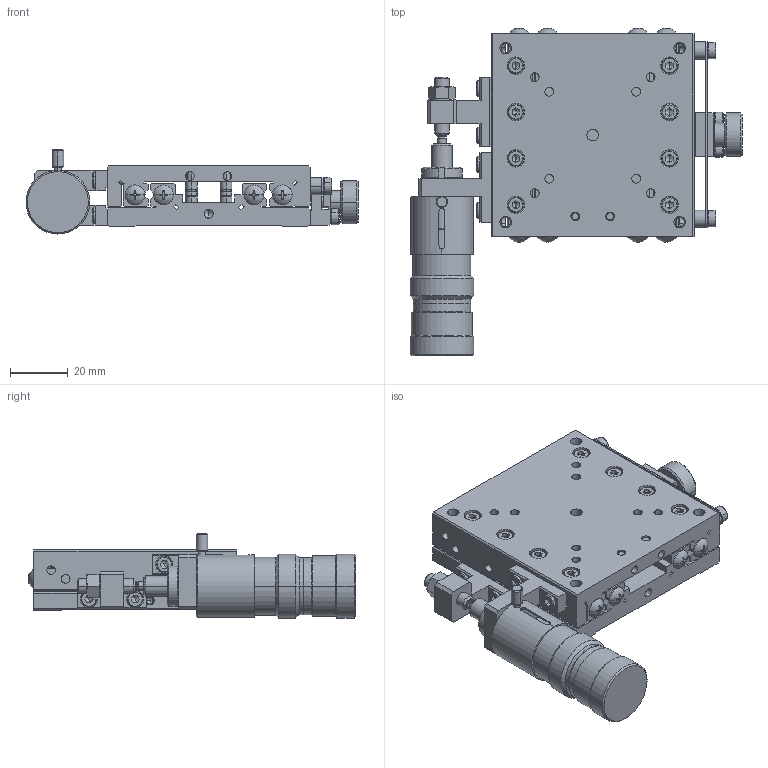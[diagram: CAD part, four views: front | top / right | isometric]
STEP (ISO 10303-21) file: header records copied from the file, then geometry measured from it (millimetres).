
FILE_DESCRIPTION (( 'STEP AP214' ), '1' );
FILE_NAME ('XM07F-S3Z-CL.STEP', '2009-05-11T06:15:19', ( ' ' ), ( ' ' ), 'SwSTEP 2.0', 'SolidWorks 2008', '' );
FILE_SCHEMA (( 'AUTOMOTIVE_DESIGN' ));
Length unit declared in the file: millimetre
Products named in the file (3): 001550-1011(3D)-10; 001550-1023(3D)-10; XM07F-S3Z-CL
Assembly tree (2 placements, depth 2):
  XM07F-S3Z-CL
    001550-1011(3D)-10
    001550-1023(3D)-10
Bounding box: 114.5 x 112.87 x 29 mm (x, y, z)
Volume: 109326.8 mm3; surface area: 54170.6 mm2
Topology: 2 solids, 40 shells, 1942 faces, 4678 edges, 2806 vertices
Faces by surface type: plane 900, cylinder 591, cone 417, sphere 18, torus 16
Entity records: 56721 total; most frequent: CARTESIAN_POINT 11157, DIRECTION 9979, ORIENTED_EDGE 9160, EDGE_CURVE 4580, AXIS2_PLACEMENT_3D 3797, VERTEX_POINT 2806, VECTOR 2385, LINE 2385
